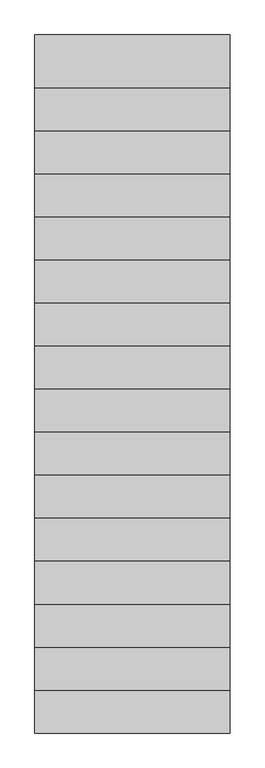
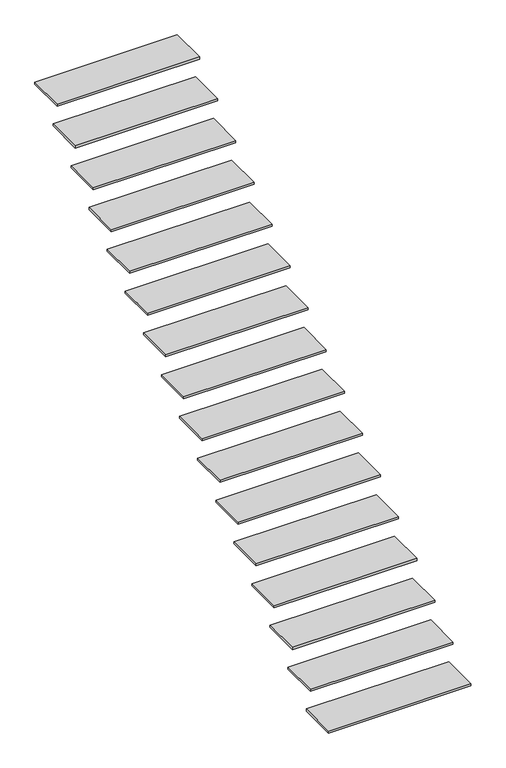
"""IFC4 building model written with IfcOpenShell, lengths in millimetres: stair flight geometry, 24_STR_trede_staal_gegalvaniseerd_rooster_15_neus_50."""

import ifcopenshell
import ifcopenshell.guid

model = None  # the IFC model being written
_history = None  # IfcOwnerHistory: only IFC2X3 demands one
_inside = {}  # id of a spatial element -> (the spatial element, [elements in it])
_under = {}  # id of a project, library or spatial element -> (it, [spatial elements below it])
_declared = {}  # id of a project -> (the project, [libraries it declares])
_typed = {}  # id of a type object -> (the type object, [elements of that type])
_made_of = {}  # id of a material, layer set ... -> (it, [elements and type objects made of it])


def new_model(schema):
    """Start an empty IFC model of exactly this schema.

    Asked for "IFC4X3", IfcOpenShell would pick the latest addendum, in which some entities
    have other attributes; the version numbers below select the first issue.
    IFC2X3 requires an IfcOwnerHistory on every rooted entity: one is made here for all.
    """
    global model, _history
    if schema == "IFC4X3":
        model = ifcopenshell.file(schema_version=(4, 3, 0, 0))
    else:
        model = ifcopenshell.file(schema=schema)
    _inside.clear()
    _under.clear()
    _declared.clear()
    _typed.clear()
    _made_of.clear()
    _history = None
    if model.schema == "IFC2X3":
        org = make("IfcOrganization", Name="unknown")
        user = make(
            "IfcPersonAndOrganization",
            ThePerson=make("IfcPerson", FamilyName="unknown"),
            TheOrganization=org,
        )
        app = make(
            "IfcApplication",
            ApplicationDeveloper=org,
            Version="unknown",
            ApplicationFullName="unknown",
            ApplicationIdentifier="unknown",
        )
        _history = make(
            "IfcOwnerHistory",
            OwningUser=user,
            OwningApplication=app,
            ChangeAction="ADDED",
            CreationDate=0,
        )
    return model


def make(cls, **values):
    """One entity of the class cls with the attributes given. An attribute that is None is left unset."""
    return model.create_entity(
        cls, **{name: value for name, value in values.items() if value is not None}
    )


def rooted(cls, **values):
    """An entity with a GlobalId (a new one), such as an element, a storey or a relation."""
    return make(cls, GlobalId=ifcopenshell.guid.new(), OwnerHistory=_history, **values)


def si_unit(unit_type, name, prefix=None):
    """IfcSIUnit, for example si_unit("LENGTHUNIT", "METRE", prefix="MILLI")."""
    return make("IfcSIUnit", UnitType=unit_type, Prefix=prefix, Name=name)


def assignment(units):
    """IfcUnitAssignment: the units of a project."""
    return None if units is None else make("IfcUnitAssignment", Units=units)


def point(xyz):
    """IfcCartesianPoint."""
    return None if xyz is None else make("IfcCartesianPoint", Coordinates=xyz)


def direction(xyz):
    """IfcDirection."""
    return None if xyz is None else make("IfcDirection", DirectionRatios=xyz)


def frame(location, z_axis=None, x_axis=None):
    """IfcAxis2Placement3D, a coordinate frame: its origin and axes. An axis left out is left unset."""
    return make(
        "IfcAxis2Placement3D",
        Location=point(location),
        Axis=direction(z_axis),
        RefDirection=direction(x_axis),
    )


def origin():
    """The frame at (0, 0, 0) with its axes left unset."""
    return frame((0.0, 0.0, 0.0))


def place(relative_to, where):
    """IfcLocalPlacement: puts the frame where relative to a parent placement (None: the world)."""
    return make(
        "IfcLocalPlacement", PlacementRelTo=relative_to, RelativePlacement=where
    )


def context(
    kind, dimensions, precision=None, world=None, true_north=None, identifier=None
):
    """IfcGeometricRepresentationContext, for example the 3D "Model" context."""
    return make(
        "IfcGeometricRepresentationContext",
        ContextIdentifier=identifier,
        ContextType=kind,
        CoordinateSpaceDimension=dimensions,
        Precision=precision,
        WorldCoordinateSystem=world,
        TrueNorth=true_north,
    )


def project(units=None, contexts=None):
    """IfcProject with its units and contexts."""
    return rooted(
        "IfcProject",
        Name="project",
        RepresentationContexts=contexts,
        UnitsInContext=assignment(units),
    )


def spatial(cls, under=None, at=None, **own):
    """A site, building, storey or space (cls), placed at a placement, below another one or the project."""
    s = rooted(cls, ObjectPlacement=at, **own)
    if under is not None:
        _under.setdefault(under.id(), (under, []))[1].append(s)
    return s


def polyline(points):
    """IfcPolyline through the points."""
    return make("IfcPolyline", Points=[point(p) for p in points])


def outline(outer, holes=None, kind="AREA"):
    """IfcArbitraryClosedProfileDef: a profile drawn as a closed curve; with holes, ...WithVoids."""
    if holes is None:
        return make("IfcArbitraryClosedProfileDef", ProfileType=kind, OuterCurve=outer)
    return make(
        "IfcArbitraryProfileDefWithVoids",
        ProfileType=kind,
        OuterCurve=outer,
        InnerCurves=holes,
    )


def extrude(swept, where, along, depth):
    """IfcExtrudedAreaSolid: the profile swept, set in the frame where, extruded along a direction by depth."""
    return make(
        "IfcExtrudedAreaSolid",
        SweptArea=swept,
        Position=where,
        ExtrudedDirection=direction(along),
        Depth=depth,
    )


def shape(context_of_items, identifier, shape_type, items):
    """IfcShapeRepresentation: the items that make up one representation, for example the "Body"."""
    return make(
        "IfcShapeRepresentation",
        ContextOfItems=context_of_items,
        RepresentationIdentifier=identifier,
        RepresentationType=shape_type,
        Items=items,
    )


def source(mapping_origin, context_of_items, identifier, shape_type, items):
    """IfcRepresentationMap: a shape defined once, which mapped items show again and again."""
    return make(
        "IfcRepresentationMap",
        MappingOrigin=mapping_origin,
        MappedRepresentation=shape(context_of_items, identifier, shape_type, items),
    )


def transform(
    local_origin,
    x_axis=None,
    y_axis=None,
    z_axis=None,
    scale=None,
    scale2=None,
    scale3=None,
    uniform=True,
):
    """IfcCartesianTransformationOperator3D, or its non-uniform kind. x_axis, y_axis, z_axis: its Axis1, 2, 3."""
    if uniform:
        return make(
            "IfcCartesianTransformationOperator3D",
            Axis1=direction(x_axis),
            Axis2=direction(y_axis),
            LocalOrigin=point(local_origin),
            Scale=scale,
            Axis3=direction(z_axis),
        )
    return make(
        "IfcCartesianTransformationOperator3DnonUniform",
        Axis1=direction(x_axis),
        Axis2=direction(y_axis),
        LocalOrigin=point(local_origin),
        Scale=scale,
        Axis3=direction(z_axis),
        Scale2=scale2,
        Scale3=scale3,
    )


def mapped(mapping_source, mapping_target):
    """IfcMappedItem: shows the shape of a source again, moved by a transform."""
    return make(
        "IfcMappedItem", MappingSource=mapping_source, MappingTarget=mapping_target
    )


def made_of(thing, what):
    """Note that an element or type object is made of a material, layer set ...; save() writes the relation."""
    if what is not None:
        _made_of.setdefault(what.id(), (what, []))[1].append(thing)
    return thing


def element(
    cls,
    number,
    at=None,
    inside=None,
    cuts=None,
    type_object=None,
    material=None,
    context=None,
    identifier="Body",
    shape_type=None,
    held_by="IfcProductDefinitionShape",
    body=None,
    shapes=None,
    **own,
):
    """One element of the class cls, such as IfcWall. Its Tag is "e" and its number.

    at: its placement. inside: the storey or other place that contains it. cuts: it is an
    opening in that element (IfcRelVoidsElement). A single representation is given by context,
    identifier, shape_type and body (its items); several are given by shapes. held_by: the class
    of the entity that holds the representations. save() writes the other relations.
    """
    e = rooted(cls, Tag="e%d" % number, ObjectPlacement=at, **own)
    if body is not None:
        shapes = [shape(context, identifier, shape_type, body)]
    if shapes is not None:
        e.Representation = make(held_by, Representations=shapes)
    if inside is not None:
        _inside.setdefault(inside.id(), (inside, []))[1].append(e)
    if cuts is not None:
        rooted(
            "IfcRelVoidsElement", RelatingBuildingElement=cuts, RelatedOpeningElement=e
        )
    if type_object is not None:
        _typed.setdefault(type_object.id(), (type_object, []))[1].append(e)
    return made_of(e, material)


def aggregate(whole, parts):
    """IfcRelAggregates: a whole, such as a stair, and the parts it consists of."""
    return rooted("IfcRelAggregates", RelatingObject=whole, RelatedObjects=parts)


def save(model, path):
    """Write the relations noted so far, then the file.

    IfcRelAggregates (storeys below a building ...), IfcRelContainedInSpatialStructure (elements
    in a storey), IfcRelDefinesByType, IfcRelAssociatesMaterial and IfcRelDeclares: one each for
    every whole, place, type object, material and project.
    """
    for whole, parts in _under.values():
        aggregate(whole, parts)
    for where, things in _inside.values():
        rooted(
            "IfcRelContainedInSpatialStructure",
            RelatedElements=things,
            RelatingStructure=where,
        )
    for kind, things in _typed.values():
        rooted("IfcRelDefinesByType", RelatedObjects=things, RelatingType=kind)
    for what, things in _made_of.values():
        rooted("IfcRelAssociatesMaterial", RelatedObjects=things, RelatingMaterial=what)
    for by, libraries in _declared.values():
        rooted("IfcRelDeclares", RelatingContext=by, RelatedDefinitions=libraries)
    model.write(path)


def stair_flight_ba551373(model_context):
    return source(origin(), model_context, "Body", "SweptSolid", [
        extrude(outline(polyline([(17274.8089026, -31054.6322236), (18274.8089026, -31054.6322236), (18274.8089026, -31324.6322236), (17274.8089026, -31324.6322236), (17274.8089026, -31054.6322236)])), frame((0.0, 0.0, 161.4705882), z_axis=(0.0, 0.0, 1.0), x_axis=(1.0, 0.0, 0.0)), (0.0, 0.0, 1.0), 15.0),
        extrude(outline(polyline([(17274.8089026, -30834.6322236), (18274.8089026, -30834.6322236), (18274.8089026, -31104.6322236), (17274.8089026, -31104.6322236), (17274.8089026, -30834.6322236)])), frame((0.0, 0.0, 337.9411765), z_axis=(0.0, 0.0, 1.0), x_axis=(1.0, 0.0, 0.0)), (0.0, 0.0, 1.0), 15.0),
        extrude(outline(polyline([(17274.8089026, -30614.6322236), (18274.8089026, -30614.6322236), (18274.8089026, -30884.6322236), (17274.8089026, -30884.6322236), (17274.8089026, -30614.6322236)])), frame((0.0, 0.0, 514.4117647), z_axis=(0.0, 0.0, 1.0), x_axis=(1.0, 0.0, 0.0)), (0.0, 0.0, 1.0), 15.0),
        extrude(outline(polyline([(17274.8089026, -30394.6322236), (18274.8089026, -30394.6322236), (18274.8089026, -30664.6322236), (17274.8089026, -30664.6322236), (17274.8089026, -30394.6322236)])), frame((0.0, 0.0, 690.8823529), z_axis=(0.0, 0.0, 1.0), x_axis=(1.0, 0.0, 0.0)), (0.0, 0.0, 1.0), 15.0),
        extrude(outline(polyline([(17274.8089026, -30174.6322236), (18274.8089026, -30174.6322236), (18274.8089026, -30444.6322236), (17274.8089026, -30444.6322236), (17274.8089026, -30174.6322236)])), frame((0.0, 0.0, 867.3529412), z_axis=(0.0, 0.0, 1.0), x_axis=(1.0, 0.0, 0.0)), (0.0, 0.0, 1.0), 15.0),
        extrude(outline(polyline([(17274.8089026, -29954.6322236), (18274.8089026, -29954.6322236), (18274.8089026, -30224.6322236), (17274.8089026, -30224.6322236), (17274.8089026, -29954.6322236)])), frame((0.0, 0.0, 1043.8235294), z_axis=(0.0, 0.0, 1.0), x_axis=(1.0, 0.0, 0.0)), (0.0, 0.0, 1.0), 15.0),
        extrude(outline(polyline([(17274.8089026, -29734.6322236), (18274.8089026, -29734.6322236), (18274.8089026, -30004.6322236), (17274.8089026, -30004.6322236), (17274.8089026, -29734.6322236)])), frame((0.0, 0.0, 1220.2941176), z_axis=(0.0, 0.0, 1.0), x_axis=(1.0, 0.0, 0.0)), (0.0, 0.0, 1.0), 15.0),
        extrude(outline(polyline([(17274.8089026, -29514.6322236), (18274.8089026, -29514.6322236), (18274.8089026, -29784.6322236), (17274.8089026, -29784.6322236), (17274.8089026, -29514.6322236)])), frame((0.0, 0.0, 1396.7647059), z_axis=(0.0, 0.0, 1.0), x_axis=(1.0, 0.0, 0.0)), (0.0, 0.0, 1.0), 15.0),
        extrude(outline(polyline([(17274.8089026, -29294.6322236), (18274.8089026, -29294.6322236), (18274.8089026, -29564.6322236), (17274.8089026, -29564.6322236), (17274.8089026, -29294.6322236)])), frame((0.0, 0.0, 1573.2352941), z_axis=(0.0, 0.0, 1.0), x_axis=(1.0, 0.0, 0.0)), (0.0, 0.0, 1.0), 15.0),
        extrude(outline(polyline([(17274.8089026, -29074.6322236), (18274.8089026, -29074.6322236), (18274.8089026, -29344.6322236), (17274.8089026, -29344.6322236), (17274.8089026, -29074.6322236)])), frame((0.0, 0.0, 1749.7058824), z_axis=(0.0, 0.0, 1.0), x_axis=(1.0, 0.0, 0.0)), (0.0, 0.0, 1.0), 15.0),
        extrude(outline(polyline([(17274.8089026, -28854.6322236), (18274.8089026, -28854.6322236), (18274.8089026, -29124.6322236), (17274.8089026, -29124.6322236), (17274.8089026, -28854.6322236)])), frame((0.0, 0.0, 1926.1764706), z_axis=(0.0, 0.0, 1.0), x_axis=(1.0, 0.0, 0.0)), (0.0, 0.0, 1.0), 15.0),
        extrude(outline(polyline([(17274.8089026, -28634.6322236), (18274.8089026, -28634.6322236), (18274.8089026, -28904.6322236), (17274.8089026, -28904.6322236), (17274.8089026, -28634.6322236)])), frame((0.0, 0.0, 2102.6470588), z_axis=(0.0, 0.0, 1.0), x_axis=(1.0, 0.0, 0.0)), (0.0, 0.0, 1.0), 15.0),
        extrude(outline(polyline([(17274.8089026, -28414.6322236), (18274.8089026, -28414.6322236), (18274.8089026, -28684.6322236), (17274.8089026, -28684.6322236), (17274.8089026, -28414.6322236)])), frame((0.0, 0.0, 2279.1176471), z_axis=(0.0, 0.0, 1.0), x_axis=(1.0, 0.0, 0.0)), (0.0, 0.0, 1.0), 15.0),
        extrude(outline(polyline([(17274.8089026, -28194.6322236), (18274.8089026, -28194.6322236), (18274.8089026, -28464.6322236), (17274.8089026, -28464.6322236), (17274.8089026, -28194.6322236)])), frame((0.0, 0.0, 2455.5882353), z_axis=(0.0, 0.0, 1.0), x_axis=(1.0, 0.0, 0.0)), (0.0, 0.0, 1.0), 15.0),
        extrude(outline(polyline([(17274.8089026, -27974.6322236), (18274.8089026, -27974.6322236), (18274.8089026, -28244.6322236), (17274.8089026, -28244.6322236), (17274.8089026, -27974.6322236)])), frame((0.0, 0.0, 2632.0588235), z_axis=(0.0, 0.0, 1.0), x_axis=(1.0, 0.0, 0.0)), (0.0, 0.0, 1.0), 15.0),
        extrude(outline(polyline([(17274.8089026, -27754.6322236), (18274.8089026, -27754.6322236), (18274.8089026, -28024.6322236), (17274.8089026, -28024.6322236), (17274.8089026, -27754.6322236)])), frame((0.0, 0.0, 2808.5294118), z_axis=(0.0, 0.0, 1.0), x_axis=(1.0, 0.0, 0.0)), (0.0, 0.0, 1.0), 15.0),
    ])


if __name__ == "__main__":
    model = new_model("IFC4")
    model_context = context("Model", 3, world=origin())
    ifc_project = project(units=[si_unit("LENGTHUNIT", "METRE", prefix="MILLI")], contexts=[model_context])
    site = spatial("IfcSite", under=ifc_project)
    building = spatial("IfcBuilding", under=site)
    placement = place(None, origin())
    stair_flight_shape = stair_flight_ba551373(model_context)
    element("IfcStairFlight", 1, ObjectType="24_STR_trede_staal_gegalvaniseerd_rooster_15_neus_50", at=placement, inside=building, context=model_context, shape_type="MappedRepresentation", body=[
        mapped(stair_flight_shape, transform((0.0, 0.0, 0.0), x_axis=(1.0, 0.0, 0.0), y_axis=(0.0, 1.0, 0.0), z_axis=(0.0, 0.0, 1.0))),
    ])
    save(model, "model.ifc")
